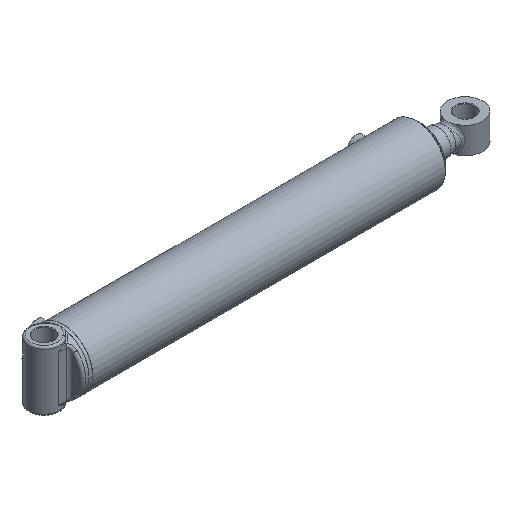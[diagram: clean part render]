
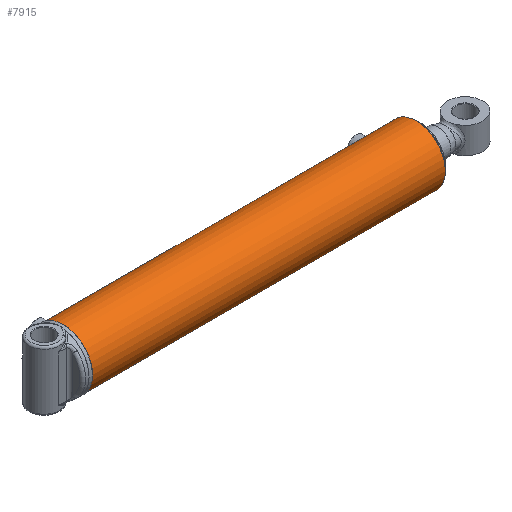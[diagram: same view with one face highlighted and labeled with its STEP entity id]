
A CAD part, isometric view. The second image highlights one B-rep face of the part: STEP entity #7915.
In plain terms, the highlighted cylindrical face has radius 49.212 mm (diameter 98.425 mm), a full revolution.
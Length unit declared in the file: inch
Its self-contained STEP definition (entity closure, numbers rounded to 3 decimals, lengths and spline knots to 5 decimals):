
#653=B_SPLINE_CURVE_WITH_KNOTS('',3,(#11899,#11900,#11901,#11902,#11903,
#11904,#11905,#11906,#11907,#11908),.UNSPECIFIED.,.F.,.F.,(4,2,2,2,4),(0.,
0.17952,0.35904,0.53855,0.71807),
 .UNSPECIFIED.);
#654=B_SPLINE_CURVE_WITH_KNOTS('',3,(#11909,#11910,#11911,#11912,#11913,
#11914,#11915,#11916,#11917,#11918,#11919,#11920,#11921,#11922,#11923,#11924,
#11925,#11926,#11927,#11928,#11929,#11930,#11931,#11932,#11933,#11934),
 .UNSPECIFIED.,.F.,.F.,(4,2,2,2,2,2,2,2,2,2,2,2,4),(0.71807,0.89759,
1.07711,1.25662,1.43614,1.61566,1.79518,
1.97469,2.15421,2.33373,2.51325,2.69276,
2.87228),.UNSPECIFIED.);
#655=B_SPLINE_CURVE_WITH_KNOTS('',3,(#11939,#11940,#11941,#11942,#11943,
#11944,#11945,#11946,#11947,#11948),.UNSPECIFIED.,.F.,.F.,(4,2,2,2,4),(0.,
0.17952,0.35904,0.53855,0.71807),
 .UNSPECIFIED.);
#656=B_SPLINE_CURVE_WITH_KNOTS('',3,(#11949,#11950,#11951,#11952,#11953,
#11954,#11955,#11956,#11957,#11958,#11959,#11960,#11961,#11962,#11963,#11964,
#11965,#11966,#11967,#11968,#11969,#11970,#11971,#11972,#11973,#11974),
 .UNSPECIFIED.,.F.,.F.,(4,2,2,2,2,2,2,2,2,2,2,2,4),(0.71807,0.89759,
1.07711,1.25662,1.43614,1.61566,1.79518,
1.97469,2.15421,2.33373,2.51325,2.69276,
2.87228),.UNSPECIFIED.);
#962=FACE_BOUND('',#2484,.T.);
#963=FACE_BOUND('',#2485,.T.);
#1244=LINE('',#12002,#1570);
#1570=VECTOR('',#9736,1.9375);
#1893=CYLINDRICAL_SURFACE('',#8765,1.9375);
#1987=FACE_OUTER_BOUND('',#2483,.T.);
#2483=EDGE_LOOP('',(#5553,#5554,#5555,#5556,#5557,#5558));
#2484=EDGE_LOOP('',(#5559,#5560));
#2485=EDGE_LOOP('',(#5561,#5562));
#3065=CIRCLE('',#8762,1.9375);
#3067=CIRCLE('',#8764,1.9375);
#3068=CIRCLE('',#8766,1.9375);
#3069=CIRCLE('',#8767,1.9375);
#3547=VERTEX_POINT('',#11896);
#3548=VERTEX_POINT('',#11898);
#3549=VERTEX_POINT('',#11936);
#3550=VERTEX_POINT('',#11938);
#3557=VERTEX_POINT('',#11995);
#3558=VERTEX_POINT('',#11996);
#3559=VERTEX_POINT('',#12001);
#3560=VERTEX_POINT('',#12003);
#4319=EDGE_CURVE('',#3548,#3547,#653,.T.);
#4320=EDGE_CURVE('',#3547,#3548,#654,.T.);
#4322=EDGE_CURVE('',#3550,#3549,#655,.T.);
#4323=EDGE_CURVE('',#3549,#3550,#656,.T.);
#4333=EDGE_CURVE('',#3557,#3558,#3065,.T.);
#4335=EDGE_CURVE('',#3558,#3557,#3067,.T.);
#4336=EDGE_CURVE('',#3557,#3559,#1244,.T.);
#4337=EDGE_CURVE('',#3560,#3559,#3068,.T.);
#4338=EDGE_CURVE('',#3559,#3560,#3069,.T.);
#5553=ORIENTED_EDGE('',*,*,#4333,.F.);
#5554=ORIENTED_EDGE('',*,*,#4336,.T.);
#5555=ORIENTED_EDGE('',*,*,#4337,.F.);
#5556=ORIENTED_EDGE('',*,*,#4338,.F.);
#5557=ORIENTED_EDGE('',*,*,#4336,.F.);
#5558=ORIENTED_EDGE('',*,*,#4335,.F.);
#5559=ORIENTED_EDGE('',*,*,#4319,.T.);
#5560=ORIENTED_EDGE('',*,*,#4320,.T.);
#5561=ORIENTED_EDGE('',*,*,#4322,.T.);
#5562=ORIENTED_EDGE('',*,*,#4323,.T.);
#7915=ADVANCED_FACE('',(#1987,#962,#963),#1893,.T.);
#8762=AXIS2_PLACEMENT_3D('',#11997,#9728,#9729);
#8764=AXIS2_PLACEMENT_3D('',#11999,#9732,#9733);
#8765=AXIS2_PLACEMENT_3D('',#12000,#9734,#9735);
#8766=AXIS2_PLACEMENT_3D('',#12004,#9737,#9738);
#8767=AXIS2_PLACEMENT_3D('',#12005,#9739,#9740);
#9728=DIRECTION('center_axis',(1.,0.,0.));
#9729=DIRECTION('ref_axis',(0.,-1.,0.));
#9732=DIRECTION('center_axis',(1.,0.,0.));
#9733=DIRECTION('ref_axis',(0.,-1.,0.));
#9734=DIRECTION('center_axis',(1.,0.,0.));
#9735=DIRECTION('ref_axis',(0.,-1.,0.));
#9736=DIRECTION('',(-1.,0.,0.));
#9737=DIRECTION('center_axis',(-1.,0.,0.));
#9738=DIRECTION('ref_axis',(0.,-1.,0.));
#9739=DIRECTION('center_axis',(-1.,0.,0.));
#9740=DIRECTION('ref_axis',(0.,-1.,0.));
#11896=CARTESIAN_POINT('',(0.7225,0.,1.9375));
#11898=CARTESIAN_POINT('',(0.91,-0.1875,1.92841));
#11899=CARTESIAN_POINT('Ctrl Pts',(0.91,-0.1875,1.92841));
#11900=CARTESIAN_POINT('Ctrl Pts',(0.88644,-0.1875,1.92841));
#11901=CARTESIAN_POINT('Ctrl Pts',(0.86132,-0.18279,
1.92888));
#11902=CARTESIAN_POINT('Ctrl Pts',(0.81513,-0.16365,
1.9306));
#11903=CARTESIAN_POINT('Ctrl Pts',(0.79406,-0.14922,
1.93182));
#11904=CARTESIAN_POINT('Ctrl Pts',(0.76078,-0.11594,
1.9341));
#11905=CARTESIAN_POINT('Ctrl Pts',(0.74635,-0.09487,
1.93531));
#11906=CARTESIAN_POINT('Ctrl Pts',(0.72721,-0.04868,
1.93703));
#11907=CARTESIAN_POINT('Ctrl Pts',(0.7225,-0.02356,1.9375));
#11908=CARTESIAN_POINT('Ctrl Pts',(0.7225,0.,1.9375));
#11909=CARTESIAN_POINT('Ctrl Pts',(0.7225,0.,1.9375));
#11910=CARTESIAN_POINT('Ctrl Pts',(0.7225,0.02356,1.9375));
#11911=CARTESIAN_POINT('Ctrl Pts',(0.72721,0.04868,
1.93703));
#11912=CARTESIAN_POINT('Ctrl Pts',(0.74635,0.09487,
1.93531));
#11913=CARTESIAN_POINT('Ctrl Pts',(0.76078,0.11594,
1.9341));
#11914=CARTESIAN_POINT('Ctrl Pts',(0.79406,0.14922,
1.93182));
#11915=CARTESIAN_POINT('Ctrl Pts',(0.81513,0.16365,
1.9306));
#11916=CARTESIAN_POINT('Ctrl Pts',(0.86132,0.18279,
1.92888));
#11917=CARTESIAN_POINT('Ctrl Pts',(0.88644,0.1875,1.92841));
#11918=CARTESIAN_POINT('Ctrl Pts',(0.93356,0.1875,1.92841));
#11919=CARTESIAN_POINT('Ctrl Pts',(0.95868,0.18279,
1.92888));
#11920=CARTESIAN_POINT('Ctrl Pts',(1.00487,0.16365,1.9306));
#11921=CARTESIAN_POINT('Ctrl Pts',(1.02594,0.14922,1.93182));
#11922=CARTESIAN_POINT('Ctrl Pts',(1.05922,0.11594,1.9341));
#11923=CARTESIAN_POINT('Ctrl Pts',(1.07365,0.09487,
1.93531));
#11924=CARTESIAN_POINT('Ctrl Pts',(1.09279,0.04868,
1.93703));
#11925=CARTESIAN_POINT('Ctrl Pts',(1.0975,0.02356,1.9375));
#11926=CARTESIAN_POINT('Ctrl Pts',(1.0975,-0.02356,1.9375));
#11927=CARTESIAN_POINT('Ctrl Pts',(1.09279,-0.04868,
1.93703));
#11928=CARTESIAN_POINT('Ctrl Pts',(1.07365,-0.09487,
1.93531));
#11929=CARTESIAN_POINT('Ctrl Pts',(1.05922,-0.11594,
1.9341));
#11930=CARTESIAN_POINT('Ctrl Pts',(1.02594,-0.14922,
1.93182));
#11931=CARTESIAN_POINT('Ctrl Pts',(1.00487,-0.16365,
1.9306));
#11932=CARTESIAN_POINT('Ctrl Pts',(0.95868,-0.18279,
1.92888));
#11933=CARTESIAN_POINT('Ctrl Pts',(0.93356,-0.1875,1.92841));
#11934=CARTESIAN_POINT('Ctrl Pts',(0.91,-0.1875,1.92841));
#11936=CARTESIAN_POINT('',(21.9425,0.,1.9375));
#11938=CARTESIAN_POINT('',(22.13,-0.1875,1.92841));
#11939=CARTESIAN_POINT('Ctrl Pts',(22.13,-0.1875,1.92841));
#11940=CARTESIAN_POINT('Ctrl Pts',(22.10644,-0.1875,
1.92841));
#11941=CARTESIAN_POINT('Ctrl Pts',(22.08132,-0.18279,
1.92888));
#11942=CARTESIAN_POINT('Ctrl Pts',(22.03513,-0.16365,
1.9306));
#11943=CARTESIAN_POINT('Ctrl Pts',(22.01406,-0.14922,1.93182));
#11944=CARTESIAN_POINT('Ctrl Pts',(21.98078,-0.11594,
1.9341));
#11945=CARTESIAN_POINT('Ctrl Pts',(21.96635,-0.09487,
1.93531));
#11946=CARTESIAN_POINT('Ctrl Pts',(21.94721,-0.04868,
1.93703));
#11947=CARTESIAN_POINT('Ctrl Pts',(21.9425,-0.02356,1.9375));
#11948=CARTESIAN_POINT('Ctrl Pts',(21.9425,0.,1.9375));
#11949=CARTESIAN_POINT('Ctrl Pts',(21.9425,0.,1.9375));
#11950=CARTESIAN_POINT('Ctrl Pts',(21.9425,0.02356,1.9375));
#11951=CARTESIAN_POINT('Ctrl Pts',(21.94721,0.04868,
1.93703));
#11952=CARTESIAN_POINT('Ctrl Pts',(21.96635,0.09487,
1.93531));
#11953=CARTESIAN_POINT('Ctrl Pts',(21.98078,0.11594,1.9341));
#11954=CARTESIAN_POINT('Ctrl Pts',(22.01406,0.14922,1.93182));
#11955=CARTESIAN_POINT('Ctrl Pts',(22.03513,0.16365,1.9306));
#11956=CARTESIAN_POINT('Ctrl Pts',(22.08132,0.18279,1.92888));
#11957=CARTESIAN_POINT('Ctrl Pts',(22.10644,0.1875,1.92841));
#11958=CARTESIAN_POINT('Ctrl Pts',(22.15356,0.1875,1.92841));
#11959=CARTESIAN_POINT('Ctrl Pts',(22.17868,0.18279,1.92888));
#11960=CARTESIAN_POINT('Ctrl Pts',(22.22487,0.16365,1.9306));
#11961=CARTESIAN_POINT('Ctrl Pts',(22.24594,0.14922,1.93182));
#11962=CARTESIAN_POINT('Ctrl Pts',(22.27922,0.11594,1.9341));
#11963=CARTESIAN_POINT('Ctrl Pts',(22.29365,0.09487,
1.93531));
#11964=CARTESIAN_POINT('Ctrl Pts',(22.31279,0.04868,
1.93703));
#11965=CARTESIAN_POINT('Ctrl Pts',(22.3175,0.02356,1.9375));
#11966=CARTESIAN_POINT('Ctrl Pts',(22.3175,-0.02356,1.9375));
#11967=CARTESIAN_POINT('Ctrl Pts',(22.31279,-0.04868,
1.93703));
#11968=CARTESIAN_POINT('Ctrl Pts',(22.29365,-0.09487,
1.93531));
#11969=CARTESIAN_POINT('Ctrl Pts',(22.27922,-0.11594,
1.9341));
#11970=CARTESIAN_POINT('Ctrl Pts',(22.24594,-0.14922,1.93182));
#11971=CARTESIAN_POINT('Ctrl Pts',(22.22487,-0.16365,
1.9306));
#11972=CARTESIAN_POINT('Ctrl Pts',(22.17868,-0.18279,
1.92888));
#11973=CARTESIAN_POINT('Ctrl Pts',(22.15356,-0.1875,
1.92841));
#11974=CARTESIAN_POINT('Ctrl Pts',(22.13,-0.1875,1.92841));
#11995=CARTESIAN_POINT('',(23.56,1.9375,0.));
#11996=CARTESIAN_POINT('',(23.56,0.,-1.9375));
#11997=CARTESIAN_POINT('Origin',(23.56,0.,0.));
#11999=CARTESIAN_POINT('Origin',(23.56,0.,0.));
#12000=CARTESIAN_POINT('Origin',(0.,0.,0.));
#12001=CARTESIAN_POINT('',(0.09382,1.9375,0.));
#12002=CARTESIAN_POINT('',(0.,1.9375,0.));
#12003=CARTESIAN_POINT('',(0.09382,0.,1.9375));
#12004=CARTESIAN_POINT('Origin',(0.09382,0.,0.));
#12005=CARTESIAN_POINT('Origin',(0.09382,0.,0.));
